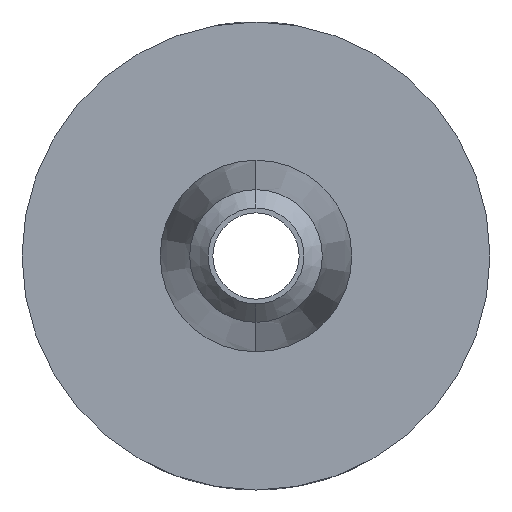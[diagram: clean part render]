
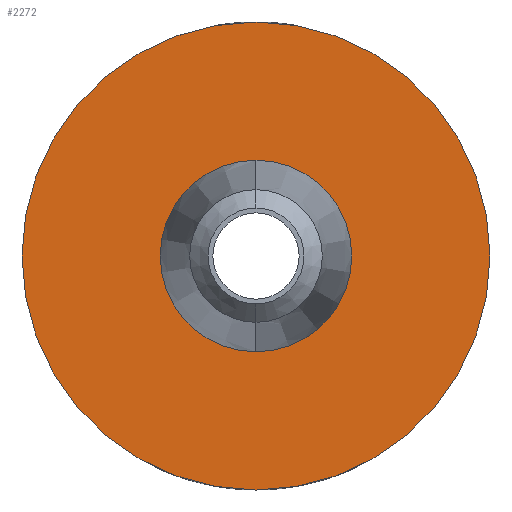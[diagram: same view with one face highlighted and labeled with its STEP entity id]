
A CAD part, left-side view. The second image highlights one B-rep face of the part: STEP entity #2272.
In plain terms, the highlighted planar face has unit normal (1, 0, 0).
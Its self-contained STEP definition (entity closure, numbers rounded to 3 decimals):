
#50=PLANE('',#2582);
#114=CIRCLE('',#2583,3.175);
#115=CIRCLE('',#2584,1.3);
#162=FACE_BOUND('',#278,.T.);
#188=FACE_OUTER_BOUND('',#277,.T.);
#277=EDGE_LOOP('',(#1852));
#278=EDGE_LOOP('',(#1853));
#1010=VERTEX_POINT('',#4409);
#1011=VERTEX_POINT('',#4411);
#1431=EDGE_CURVE('',#1010,#1010,#114,.T.);
#1432=EDGE_CURVE('',#1011,#1011,#115,.T.);
#1852=ORIENTED_EDGE('',*,*,#1431,.T.);
#1853=ORIENTED_EDGE('',*,*,#1432,.T.);
#2272=ADVANCED_FACE('',(#188,#162),#50,.T.);
#2582=AXIS2_PLACEMENT_3D('',#4408,#2814,#2815);
#2583=AXIS2_PLACEMENT_3D('',#4410,#2816,#2817);
#2584=AXIS2_PLACEMENT_3D('',#4412,#2818,#2819);
#2814=DIRECTION('center_axis',(1.,0.,0.));
#2815=DIRECTION('ref_axis',(0.,0.,-1.));
#2816=DIRECTION('center_axis',(1.,0.,0.));
#2817=DIRECTION('ref_axis',(0.,0.,-1.));
#2818=DIRECTION('center_axis',(-1.,0.,0.));
#2819=DIRECTION('ref_axis',(0.,0.,
-1.));
#4408=CARTESIAN_POINT('Origin',(-4.75,-3.213,0.));
#4409=CARTESIAN_POINT('',(-4.75,0.,3.175));
#4410=CARTESIAN_POINT('Origin',(-4.75,0.,0.));
#4411=CARTESIAN_POINT('',(-4.75,0.,1.3));
#4412=CARTESIAN_POINT('Origin',(-4.75,0.,0.));
